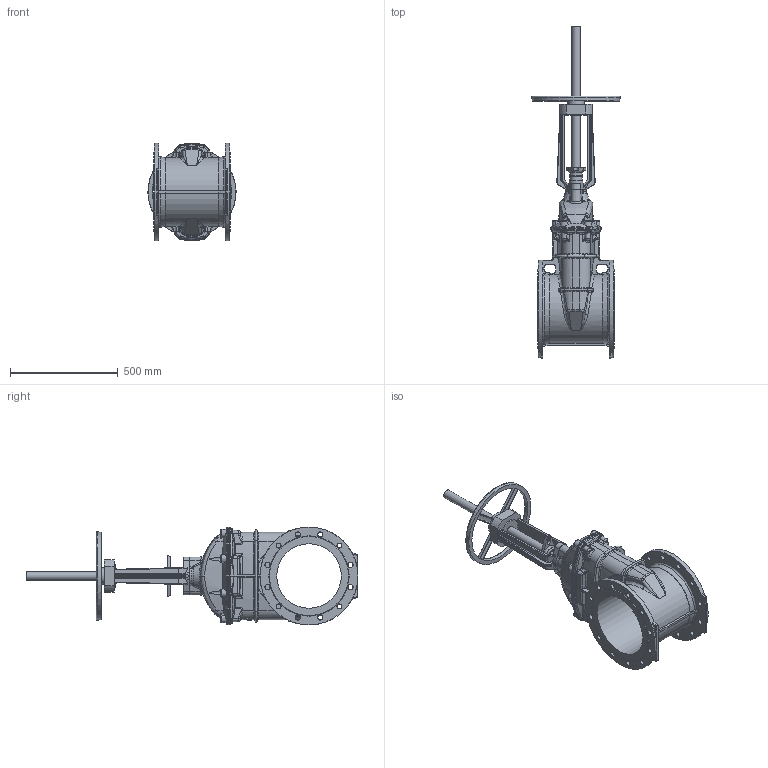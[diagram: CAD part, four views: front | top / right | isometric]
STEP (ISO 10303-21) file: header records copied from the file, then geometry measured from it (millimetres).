
FILE_DESCRIPTION (( 'STEP AP203' ), '1' );
FILE_NAME ('O_21_34_DN300_40XXXXX open_AA0.step', '2020-02-12T09:36:56', ( 'Windows User' ), ( 'AVK' ), 'SwSTEP 2.0', 'SolidWorks 2012', '' );
FILE_SCHEMA (( 'CONFIG_CONTROL_DESIGN' ));
Length unit declared in the file: millimetre
Products named in the file (1): O_21_34_DN300_40XXXXX open_AA0
Bounding box: 409.9 x 1542 x 455 mm (x, y, z)
Volume: 35170568.6 mm3; surface area: 2082542.7 mm2
Topology: 1 solids, 1 shells, 1065 faces, 2718 edges, 1648 vertices
Faces by surface type: bspline 388, plane 232, cylinder 221, cone 140, torus 80, sphere 4
Full cylindrical faces by diameter (mm): 23 x24, 40 x2, 55.9 x1, 60 x1, 64 x1, 77 x1, 105 x2, 300 x1, 455 x2
Entity records: 49467 total; most frequent: CARTESIAN_POINT 27622, ORIENTED_EDGE 5230, DIRECTION 3640, EDGE_CURVE 2615, VERTEX_POINT 1609, AXIS2_PLACEMENT_3D 1489, EDGE_LOOP 1188, FACE_OUTER_BOUND 1104
